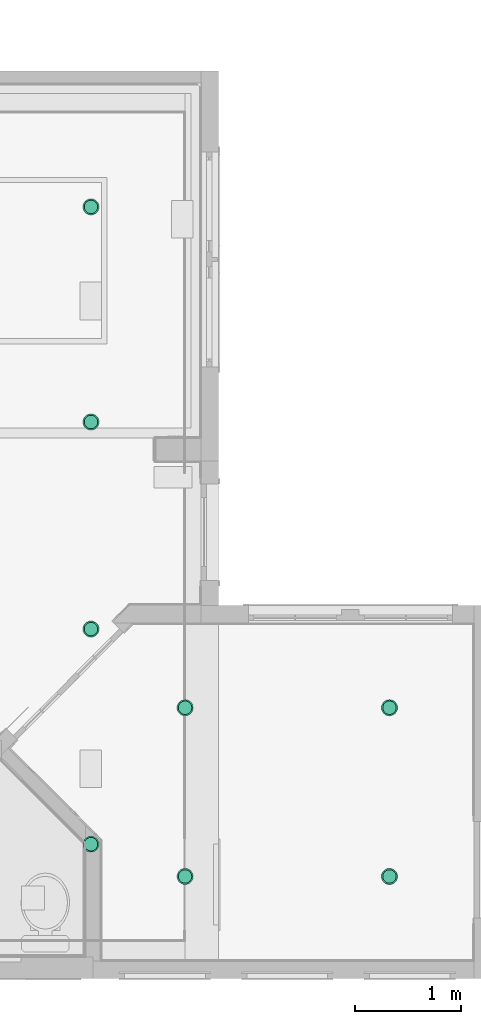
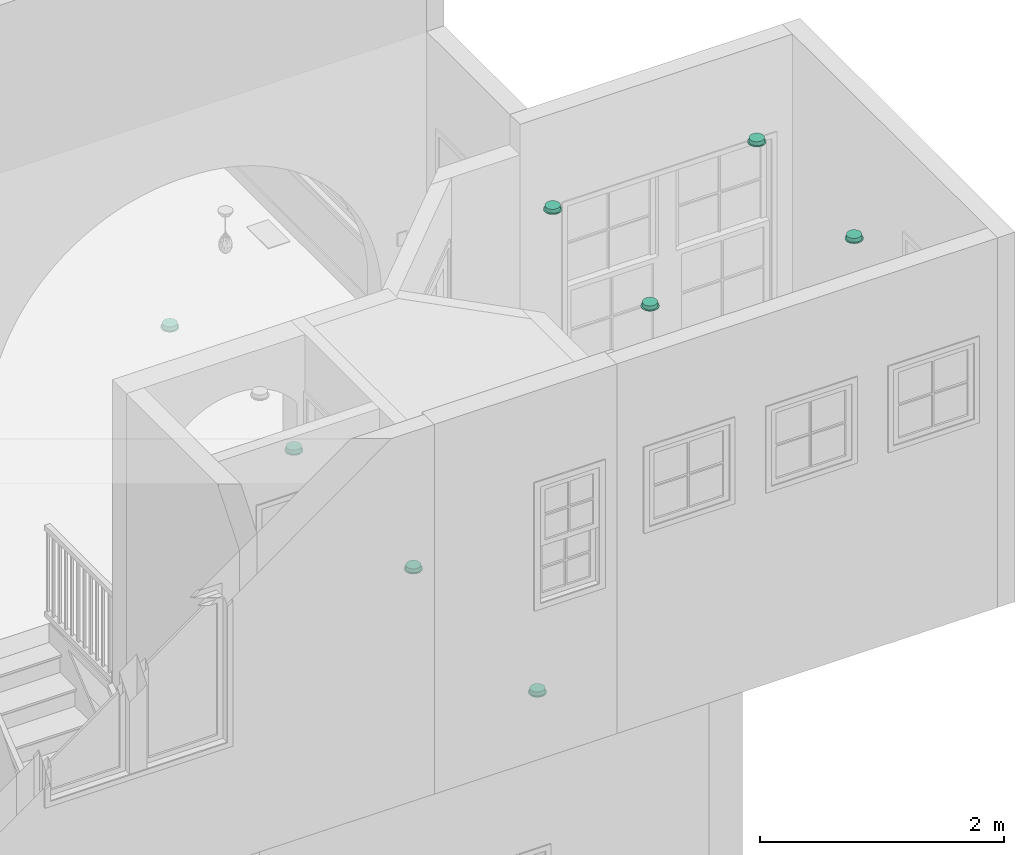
# One storey, part 49 of 81: 8 flow terminals.
"""IFC2X3 building model written with IfcOpenShell, lengths in feet."""

from ifc_helpers import new_model, entity, si_unit, converted_unit, derived_unit, direction, frame, origin, place, context, subcontext, project, spatial, faceted_brep, source, transform, mapped, material, material_list, type_object, type_shapes, element, save


model = new_model("IFC2X3")

# Units and contexts
model_context = context("Model", 3, precision=0.0001, world=origin(), true_north=direction((6.12303176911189e-17, 1.0)))
body_context = subcontext(model_context, "Body", "Model", "MODEL_VIEW")
ifc_project = project(units=[converted_unit("LENGTHUNIT", "FOOT", entity("IfcRatioMeasure", 0.3048), si_unit("LENGTHUNIT", "METRE"), dimensions=[1, 0, 0, 0, 0, 0, 0]), converted_unit("AREAUNIT", "SQUARE FOOT", entity("IfcRatioMeasure", 0.09290304), si_unit("AREAUNIT", "SQUARE_METRE"), dimensions=[2, 0, 0, 0, 0, 0, 0]), converted_unit("VOLUMEUNIT", "CUBIC FOOT", entity("IfcRatioMeasure", 0.028316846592), si_unit("VOLUMEUNIT", "CUBIC_METRE"), dimensions=[3, 0, 0, 0, 0, 0, 0]), converted_unit("PLANEANGLEUNIT", "DEGREE", entity("IfcRatioMeasure", 0.0174532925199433), si_unit("PLANEANGLEUNIT", "RADIAN"), dimensions=[0, 0, 0, 0, 0, 0, 0]), si_unit("MASSUNIT", "GRAM", prefix="KILO"), derived_unit("MASSDENSITYUNIT", [(si_unit("MASSUNIT", "GRAM", prefix="KILO"), 1), (si_unit("LENGTHUNIT", "METRE"), -3)]), derived_unit("MOMENTOFINERTIAUNIT", [(si_unit("LENGTHUNIT", "METRE"), 4)]), si_unit("TIMEUNIT", "SECOND"), si_unit("FREQUENCYUNIT", "HERTZ"), si_unit("THERMODYNAMICTEMPERATUREUNIT", "DEGREE_CELSIUS"), derived_unit("THERMALTRANSMITTANCEUNIT", [(si_unit("MASSUNIT", "GRAM", prefix="KILO"), 1), (si_unit("THERMODYNAMICTEMPERATUREUNIT", "KELVIN"), -1), (si_unit("TIMEUNIT", "SECOND"), -3)]), derived_unit("VOLUMETRICFLOWRATEUNIT", [(si_unit("LENGTHUNIT", "METRE"), 3), (si_unit("TIMEUNIT", "SECOND"), -1)]), si_unit("ELECTRICCURRENTUNIT", "AMPERE"), si_unit("ELECTRICVOLTAGEUNIT", "VOLT"), si_unit("POWERUNIT", "WATT"), si_unit("FORCEUNIT", "NEWTON"), si_unit("ILLUMINANCEUNIT", "LUX"), si_unit("LUMINOUSFLUXUNIT", "LUMEN"), si_unit("LUMINOUSINTENSITYUNIT", "CANDELA"), derived_unit("USERDEFINED", [(si_unit("MASSUNIT", "GRAM", prefix="KILO"), -1), (si_unit("LENGTHUNIT", "METRE"), -2), (si_unit("TIMEUNIT", "SECOND"), 3), (si_unit("LUMINOUSFLUXUNIT", "LUMEN"), 1)]), derived_unit("LINEARVELOCITYUNIT", [(si_unit("LENGTHUNIT", "METRE"), 1), (si_unit("TIMEUNIT", "SECOND"), -1)]), si_unit("PRESSUREUNIT", "PASCAL"), derived_unit("USERDEFINED", [(si_unit("LENGTHUNIT", "METRE"), -2), (si_unit("MASSUNIT", "GRAM", prefix="KILO"), 1), (si_unit("TIMEUNIT", "SECOND"), -2)]), derived_unit("LINEARFORCEUNIT", [(si_unit("MASSUNIT", "GRAM", prefix="KILO"), 1), (si_unit("LENGTHUNIT", "METRE"), 1), (si_unit("TIMEUNIT", "SECOND"), -2), (si_unit("LENGTHUNIT", "METRE"), -1)]), derived_unit("PLANARFORCEUNIT", [(si_unit("MASSUNIT", "GRAM", prefix="KILO"), 1), (si_unit("LENGTHUNIT", "METRE"), 1), (si_unit("TIMEUNIT", "SECOND"), -2), (si_unit("LENGTHUNIT", "METRE"), -2)])], contexts=[model_context])

# Site, building, storey
site_placement = place(None, origin())
site = spatial("IfcSite", under=ifc_project, at=site_placement, Name="Default", CompositionType="ELEMENT")
building_placement = place(site_placement, origin())
building = spatial("IfcBuilding", under=site, at=building_placement, CompositionType="ELEMENT")
storey_placement = place(building_placement, origin())
storey = spatial("IfcBuildingStorey", under=building, at=storey_placement, Name="First floor", CompositionType="ELEMENT", Elevation=0.0)

# Flow terminals
ifc_material_1 = material(Name="Default New Material")
ifc_material_2 = material(Name="Glass, White, High Luminance")
ifc_material_list_1 = material_list([ifc_material_1, ifc_material_2])
ifc_material_list_2 = material_list([ifc_material_1, ifc_material_2])
light_fixture_type = type_object("IfcLightFixtureType", Name="M_Recessed Lamp - Round - LED:Light 2", PredefinedType="NOTDEFINED", material=ifc_material_list_2)
shared_shape = source(origin(), body_context, "Body", "Brep", [
    faceted_brep([(-0.124999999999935, 0.216506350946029, 0.0208333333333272), (-0.176776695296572, 0.176776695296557, 0.0208333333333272), (-0.0833333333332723, 0.144337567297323, 0.0208333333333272), (-0.0431365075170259, 0.160987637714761, 0.0208333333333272), (-0.0647047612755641, 0.241481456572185, 0.0208333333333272), (-0.117851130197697, 0.117851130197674, 0.0208333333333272), (-0.216506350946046, 0.12499999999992, 0.0208333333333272), (-0.144337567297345, 0.0833333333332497, 0.0208333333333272), (-0.160987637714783, 0.0431365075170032, 0.0208333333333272), (-0.241481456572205, 0.0647047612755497, 0.0208333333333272), (-0.166666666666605, 0.0, 0.0208333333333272), (-0.249999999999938, 0.0, 0.0208333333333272), (-0.160987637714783, -0.0431365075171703, 0.0208333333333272), (-0.241481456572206, -0.0647047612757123, 0.0208333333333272), (-0.144337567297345, -0.0833333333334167, 0.0208333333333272), (-0.216506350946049, -0.125000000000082, 0.0208333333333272), (-0.117851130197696, -0.117851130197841, 0.0208333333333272), (-0.176776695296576, -0.176776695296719, 0.0208333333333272), (-0.0833333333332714, -0.14433756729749, 0.0208333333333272), (-0.12499999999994, -0.216506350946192, 0.0208333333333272), (-0.0431365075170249, -0.160987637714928, 0.0208333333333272), (-0.0647047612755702, -0.24148145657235, 0.0208333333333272), (0.0, -0.16666666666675, 0.0208333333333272), (0.0, -0.250000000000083, 0.0208333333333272), (0.0431365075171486, -0.160987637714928, 0.0208333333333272), (0.0647047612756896, -0.241481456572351, 0.0208333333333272), (0.0833333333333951, -0.144337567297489, 0.0208333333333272), (0.12500000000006, -0.216506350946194, 0.0208333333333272), (0.11785113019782, -0.117851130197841, 0.0208333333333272), (0.176776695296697, -0.176776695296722, 0.0208333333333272), (0.144337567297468, -0.0833333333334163, 0.0208333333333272), (0.21650635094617, -0.125000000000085, 0.0208333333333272), (0.241481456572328, -0.0647047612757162, 0.0208333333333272), (0.160987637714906, -0.0431365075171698, 0.0208333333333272), (0.250000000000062, 0.0, 0.0208333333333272), (0.166666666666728, 0.0, 0.0208333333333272), (0.241481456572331, 0.06470476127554, 0.0208333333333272), (0.160987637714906, 0.0431365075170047, 0.0208333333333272), (0.216506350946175, 0.124999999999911, 0.0208333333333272), (0.144337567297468, 0.0833333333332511, 0.0208333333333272), (0.176776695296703, 0.176776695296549, 0.0208333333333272), (0.117851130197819, 0.117851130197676, 0.0208333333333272), (0.125000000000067, 0.216506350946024, 0.0208333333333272), (0.0833333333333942, 0.144337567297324, 0.0208333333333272), (0.0647047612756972, 0.241481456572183, 0.0208333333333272), (0.0431365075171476, 0.160987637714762, 0.0208333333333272), (0.0, 0.249999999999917, 0.0208333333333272), (0.0, 0.166666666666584, 0.0208333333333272), (-0.12499999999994, -0.216506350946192, 0.0), (-0.176776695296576, -0.176776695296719, 0.0), (-0.0833333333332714, -0.14433756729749, 0.0), (-0.0431365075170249, -0.160987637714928, 0.0), (-0.0647047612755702, -0.24148145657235, 0.0), (-0.117851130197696, -0.117851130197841, 0.0), (-0.216506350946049, -0.125000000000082, 0.0), (-0.144337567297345, -0.0833333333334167, 0.0), (-0.160987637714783, -0.0431365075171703, 0.0), (-0.241481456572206, -0.0647047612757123, 0.0), (-0.166666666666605, 0.0, 0.0), (-0.249999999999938, 0.0, 0.0), (-0.160987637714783, 0.0431365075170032, 0.0), (-0.241481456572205, 0.0647047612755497, 0.0), (-0.144337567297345, 0.0833333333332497, 0.0), (-0.216506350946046, 0.12499999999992, 0.0), (-0.117851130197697, 0.117851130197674, 0.0), (-0.176776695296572, 0.176776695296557, 0.0), (-0.0833333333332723, 0.144337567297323, 0.0), (-0.124999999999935, 0.216506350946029, 0.0), (-0.0431365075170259, 0.160987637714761, 0.0), (-0.0647047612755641, 0.241481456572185, 0.0), (0.0, 0.166666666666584, 0.0), (0.0, 0.249999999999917, 0.0), (0.0431365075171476, 0.160987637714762, 0.0), (0.0647047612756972, 0.241481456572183, 0.0), (0.0833333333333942, 0.144337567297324, 0.0), (0.125000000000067, 0.216506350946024, 0.0), (0.117851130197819, 0.117851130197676, 0.0), (0.176776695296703, 0.176776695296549, 0.0), (0.144337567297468, 0.0833333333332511, 0.0), (0.216506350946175, 0.124999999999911, 0.0), (0.241481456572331, 0.06470476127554, 0.0), (0.160987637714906, 0.0431365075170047, 0.0), (0.250000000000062, 0.0, 0.0), (0.166666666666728, 0.0, 0.0), (0.241481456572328, -0.0647047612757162, 0.0), (0.160987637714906, -0.0431365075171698, 0.0), (0.21650635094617, -0.125000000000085, 0.0), (0.144337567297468, -0.0833333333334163, 0.0), (0.176776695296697, -0.176776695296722, 0.0), (0.11785113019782, -0.117851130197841, 0.0), (0.12500000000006, -0.216506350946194, 0.0), (0.0833333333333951, -0.144337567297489, 0.0), (0.0647047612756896, -0.241481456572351, 0.0), (0.0431365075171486, -0.160987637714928, 0.0), (0.0, -0.250000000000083, 0.0), (0.0, -0.16666666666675, 0.0)], [[[0, 1, 2]], [[0, 2, 3]], [[3, 4, 0]], [[2, 1, 5]], [[6, 5, 1]], [[7, 5, 6]], [[8, 7, 6]], [[8, 6, 9]], [[8, 9, 10]], [[10, 9, 11]], [[12, 10, 11]], [[12, 11, 13]], [[14, 12, 13]], [[14, 13, 15]], [[16, 14, 15]], [[15, 17, 16]], [[17, 18, 16]], [[18, 17, 19]], [[18, 19, 20]], [[21, 20, 19]], [[20, 21, 22]], [[22, 21, 23]], [[23, 24, 22]], [[24, 23, 25]], [[24, 25, 26]], [[27, 26, 25]], [[27, 28, 26]], [[27, 29, 28]], [[30, 28, 29]], [[31, 30, 29]], [[32, 30, 31]], [[33, 30, 32]], [[33, 32, 34]], [[34, 35, 33]], [[36, 35, 34]], [[36, 37, 35]], [[37, 36, 38]], [[39, 37, 38]], [[39, 38, 40]], [[39, 40, 41]], [[40, 42, 41]], [[41, 42, 43]], [[43, 42, 44]], [[44, 45, 43]], [[46, 45, 44]], [[4, 47, 46]], [[45, 46, 47]], [[4, 3, 47]], [[48, 49, 50]], [[48, 50, 51]], [[51, 52, 48]], [[50, 49, 53]], [[54, 53, 49]], [[55, 53, 54]], [[56, 55, 54]], [[56, 54, 57]], [[56, 57, 58]], [[58, 57, 59]], [[60, 58, 59]], [[60, 59, 61]], [[62, 60, 61]], [[62, 61, 63]], [[64, 62, 63]], [[63, 65, 64]], [[65, 66, 64]], [[66, 65, 67]], [[66, 67, 68]], [[69, 68, 67]], [[68, 69, 70]], [[70, 69, 71]], [[71, 72, 70]], [[72, 71, 73]], [[72, 73, 74]], [[75, 74, 73]], [[75, 76, 74]], [[75, 77, 76]], [[78, 76, 77]], [[79, 78, 77]], [[80, 78, 79]], [[81, 78, 80]], [[81, 80, 82]], [[82, 83, 81]], [[84, 83, 82]], [[84, 85, 83]], [[85, 84, 86]], [[87, 85, 86]], [[87, 86, 88]], [[87, 88, 89]], [[88, 90, 89]], [[89, 90, 91]], [[91, 90, 92]], [[92, 93, 91]], [[94, 93, 92]], [[52, 95, 94]], [[93, 94, 95]], [[52, 51, 95]], [[10, 58, 60, 8]], [[8, 60, 62, 7]], [[2, 5, 64, 66]], [[62, 64, 5, 7]], [[3, 2, 66, 68]], [[70, 47, 3, 68]], [[45, 72, 74, 43]], [[43, 74, 76, 41]], [[37, 39, 78, 81]], [[76, 78, 39, 41]], [[35, 37, 81, 83]], [[45, 47, 70, 72]], [[35, 83, 85, 33]], [[33, 85, 87, 30]], [[26, 28, 89, 91]], [[87, 89, 28, 30]], [[24, 26, 91, 93]], [[95, 22, 24, 93]], [[20, 51, 50, 18]], [[18, 50, 53, 16]], [[12, 14, 55, 56]], [[53, 55, 14, 16]], [[10, 12, 56, 58]], [[20, 22, 95, 51]], [[57, 13, 11, 59]], [[54, 15, 13, 57]], [[19, 17, 49, 48]], [[54, 49, 17, 15]], [[21, 19, 48, 52]], [[23, 21, 52, 94]], [[92, 25, 23, 94]], [[90, 27, 25, 92]], [[31, 29, 88, 86]], [[90, 88, 29, 27]], [[32, 31, 86, 84]], [[34, 32, 84, 82]], [[80, 36, 34, 82]], [[79, 38, 36, 80]], [[42, 40, 77, 75]], [[79, 77, 40, 38]], [[44, 42, 75, 73]], [[46, 44, 73, 71]], [[69, 4, 46, 71]], [[67, 0, 4, 69]], [[6, 1, 65, 63]], [[67, 65, 1, 0]], [[9, 6, 63, 61]], [[11, 9, 61, 59]]]),
    faceted_brep([(0.0431365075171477, -0.160987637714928, 0.0208333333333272), (0.0833333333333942, -0.14433756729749, 0.0208333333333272), (0.117851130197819, -0.117851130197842, 0.0208333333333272), (0.144337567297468, -0.0833333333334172, 0.0208333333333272), (0.160987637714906, -0.0431365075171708, 0.0208333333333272), (0.166666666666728, 0.0, 0.0208333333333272), (0.160987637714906, 0.0431365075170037, 0.0208333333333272), (0.144337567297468, 0.0833333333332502, 0.0208333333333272), (0.11785113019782, 0.117851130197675, 0.0208333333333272), (0.0833333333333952, 0.144337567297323, 0.0208333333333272), (0.0431365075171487, 0.160987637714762, 0.0208333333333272), (0.0, 0.166666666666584, 0.0208333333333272), (-0.0431365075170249, 0.160987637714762, 0.0208333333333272), (-0.0833333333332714, 0.144337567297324, 0.0208333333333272), (-0.117851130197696, 0.117851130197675, 0.0208333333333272), (-0.144337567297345, 0.0833333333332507, 0.0208333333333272), (-0.160987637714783, 0.0431365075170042, 0.0208333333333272), (-0.166666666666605, 0.0, 0.0208333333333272), (-0.160987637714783, -0.0431365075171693, 0.0208333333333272), (-0.144337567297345, -0.0833333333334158, 0.0208333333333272), (-0.117851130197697, -0.117851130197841, 0.0208333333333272), (-0.0833333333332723, -0.144337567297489, 0.0208333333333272), (-0.0431365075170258, -0.160987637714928, 0.0208333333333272), (0.0, -0.16666666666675, 0.0208333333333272), (0.0431365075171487, 0.160987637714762, 0.0), (0.0833333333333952, 0.144337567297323, 0.0), (0.11785113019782, 0.117851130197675, 0.0), (0.144337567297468, 0.0833333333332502, 0.0), (0.160987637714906, 0.0431365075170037, 0.0), (0.166666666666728, 0.0, 0.0), (0.160987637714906, -0.0431365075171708, 0.0), (0.144337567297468, -0.0833333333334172, 0.0), (0.117851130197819, -0.117851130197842, 0.0), (0.0833333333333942, -0.14433756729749, 0.0), (0.0431365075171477, -0.160987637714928, 0.0), (0.0, -0.16666666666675, 0.0), (-0.0431365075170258, -0.160987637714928, 0.0), (-0.0833333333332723, -0.144337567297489, 0.0), (-0.117851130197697, -0.117851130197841, 0.0), (-0.144337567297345, -0.0833333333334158, 0.0), (-0.160987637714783, -0.0431365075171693, 0.0), (-0.166666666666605, 0.0, 0.0), (-0.160987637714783, 0.0431365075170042, 0.0), (-0.144337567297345, 0.0833333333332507, 0.0), (-0.117851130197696, 0.117851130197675, 0.0), (-0.0833333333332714, 0.144337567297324, 0.0), (-0.0431365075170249, 0.160987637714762, 0.0), (0.0, 0.166666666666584, 0.0)], [[[0, 1, 2, 3, 4, 5, 6, 7, 8, 9, 10, 11, 12, 13, 14, 15, 16, 17, 18, 19, 20, 21, 22, 23]], [[24, 25, 26, 27, 28, 29, 30, 31, 32, 33, 34, 35, 36, 37, 38, 39, 40, 41, 42, 43, 44, 45, 46, 47]], [[40, 18, 17, 41]], [[39, 19, 18, 40]], [[21, 20, 38, 37]], [[39, 38, 20, 19]], [[22, 21, 37, 36]], [[23, 22, 36, 35]], [[34, 0, 23, 35]], [[33, 1, 0, 34]], [[3, 2, 32, 31]], [[33, 32, 2, 1]], [[4, 3, 31, 30]], [[5, 4, 30, 29]], [[28, 6, 5, 29]], [[27, 7, 6, 28]], [[9, 8, 26, 25]], [[27, 26, 8, 7]], [[10, 9, 25, 24]], [[11, 10, 24, 47]], [[46, 12, 11, 47]], [[45, 13, 12, 46]], [[15, 14, 44, 43]], [[45, 44, 14, 13]], [[16, 15, 43, 42]], [[17, 16, 42, 41]]]),
    faceted_brep([(0.0, -0.16666666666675, -0.104166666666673), (0.0431365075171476, -0.160987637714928, -0.104166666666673), (0.0833333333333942, -0.14433756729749, -0.104166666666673), (0.117851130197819, -0.117851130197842, -0.104166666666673), (0.144337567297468, -0.0833333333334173, -0.104166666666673), (0.160987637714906, -0.0431365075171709, -0.104166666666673), (0.166666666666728, 0.0, -0.104166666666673), (0.160987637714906, 0.0431365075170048, -0.104166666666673), (0.144337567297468, 0.0833333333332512, -0.104166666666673), (0.117851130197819, 0.117851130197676, -0.104166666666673), (0.0833333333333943, 0.144337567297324, -0.104166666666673), (0.0431365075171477, 0.160987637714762, -0.104166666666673), (0.0, 0.166666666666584, -0.104166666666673), (-0.0431365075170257, 0.160987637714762, -0.104166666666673), (-0.0833333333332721, 0.144337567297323, -0.104166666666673), (-0.117851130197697, 0.117851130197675, -0.104166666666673), (-0.144337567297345, 0.0833333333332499, -0.104166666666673), (-0.160987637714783, 0.0431365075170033, -0.104166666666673), (-0.166666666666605, 0.0, -0.104166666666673), (-0.160987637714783, -0.0431365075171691, -0.104166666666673), (-0.144337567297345, -0.0833333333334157, -0.104166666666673), (-0.117851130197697, -0.11785113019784, -0.104166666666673), (-0.0833333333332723, -0.144337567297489, -0.104166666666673), (-0.0431365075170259, -0.160987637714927, -0.104166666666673), (0.0, 0.20833333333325, -0.125000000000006), (0.0539206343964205, 0.201234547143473, -0.125000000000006), (0.104166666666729, 0.180421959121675, -0.125000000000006), (0.147313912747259, 0.147313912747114, -0.125000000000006), (0.18042195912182, 0.104166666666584, -0.125000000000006), (0.201234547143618, 0.0539206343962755, -0.125000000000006), (0.208333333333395, 0.0, -0.125000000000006), (0.201234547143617, -0.0539206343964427, -0.125000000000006), (0.180421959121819, -0.104166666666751, -0.125000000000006), (0.147313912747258, -0.147313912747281, -0.125000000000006), (0.104166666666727, -0.180421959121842, -0.125000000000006), (0.0539206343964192, -0.201234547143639, -0.125000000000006), (0.0, -0.208333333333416, -0.125000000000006), (-0.0539206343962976, -0.201234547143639, -0.125000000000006), (-0.104166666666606, -0.180421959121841, -0.125000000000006), (-0.147313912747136, -0.14731391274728, -0.125000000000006), (-0.180421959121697, -0.104166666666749, -0.125000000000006), (-0.201234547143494, -0.0539206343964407, -0.125000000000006), (-0.208333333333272, 0.0, -0.125000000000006), (-0.201234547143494, 0.0539206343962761, -0.125000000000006), (-0.180421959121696, 0.104166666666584, -0.125000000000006), (-0.147313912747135, 0.147313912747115, -0.125000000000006), (-0.104166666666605, 0.180421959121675, -0.125000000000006), (-0.0539206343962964, 0.201234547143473, -0.125000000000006), (-0.201234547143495, -0.0539206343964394, -0.104166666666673), (-0.201234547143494, -0.0539206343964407, 0.0), (-0.208333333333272, 0.0, 0.0), (-0.208333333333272, 0.0, -0.104166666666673), (-0.180421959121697, -0.104166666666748, -0.104166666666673), (-0.180421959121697, -0.104166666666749, 0.0), (-0.104166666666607, -0.18042195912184, -0.104166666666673), (-0.104166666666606, -0.180421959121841, 0.0), (-0.147313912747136, -0.14731391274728, 0.0), (-0.147313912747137, -0.147313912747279, -0.104166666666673), (-0.0539206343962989, -0.201234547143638, -0.104166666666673), (-0.0539206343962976, -0.201234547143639, 0.0), (0.0, -0.208333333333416, -0.104166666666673), (0.0, -0.208333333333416, 0.0), (0.053920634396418, -0.201234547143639, -0.104166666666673), (0.0539206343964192, -0.201234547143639, 0.0), (0.104166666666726, -0.180421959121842, -0.104166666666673), (0.104166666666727, -0.180421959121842, 0.0), (0.180421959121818, -0.104166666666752, -0.104166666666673), (0.180421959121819, -0.104166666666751, 0.0), (0.147313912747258, -0.147313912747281, 0.0), (0.147313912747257, -0.147313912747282, -0.104166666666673), (0.201234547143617, -0.0539206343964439, -0.104166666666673), (0.201234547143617, -0.0539206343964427, 0.0), (0.208333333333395, 0.0, -0.104166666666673), (0.208333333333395, 0.0, 0.0), (0.201234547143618, 0.0539206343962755, -0.104166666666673), (0.201234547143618, 0.0539206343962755, 0.0), (0.18042195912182, 0.104166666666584, -0.104166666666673), (0.18042195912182, 0.104166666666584, 0.0), (0.104166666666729, 0.180421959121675, -0.104166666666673), (0.104166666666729, 0.180421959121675, 0.0), (0.147313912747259, 0.147313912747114, 0.0), (0.147313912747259, 0.147313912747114, -0.104166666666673), (0.0539206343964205, 0.201234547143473, -0.104166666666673), (0.0539206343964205, 0.201234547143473, 0.0), (0.0, 0.20833333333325, -0.104166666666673), (0.0, 0.20833333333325, 0.0), (-0.0539206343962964, 0.201234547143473, -0.104166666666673), (-0.0539206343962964, 0.201234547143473, 0.0), (-0.104166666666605, 0.180421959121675, -0.104166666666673), (-0.104166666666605, 0.180421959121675, 0.0), (-0.180421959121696, 0.104166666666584, -0.104166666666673), (-0.180421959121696, 0.104166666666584, 0.0), (-0.147313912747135, 0.147313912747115, 0.0), (-0.147313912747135, 0.147313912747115, -0.104166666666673), (-0.201234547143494, 0.0539206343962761, -0.104166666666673), (-0.201234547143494, 0.0539206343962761, 0.0), (-0.0833333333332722, 0.144337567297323, 0.0), (-0.0431365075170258, 0.160987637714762, 0.0), (-0.117851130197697, 0.117851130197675, 0.0), (-0.144337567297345, 0.0833333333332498, 0.0), (-0.160987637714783, 0.0431365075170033, 0.0), (-0.166666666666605, 0.0, 0.0), (-0.160987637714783, -0.0431365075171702, 0.0), (-0.144337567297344, -0.0833333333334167, 0.0), (-0.117851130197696, -0.117851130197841, 0.0), (-0.0833333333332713, -0.14433756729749, 0.0), (-0.0431365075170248, -0.160987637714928, 0.0), (0.0, -0.16666666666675, 0.0), (0.0431365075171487, -0.160987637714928, 0.0), (0.0833333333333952, -0.144337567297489, 0.0), (0.11785113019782, -0.117851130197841, 0.0), (0.144337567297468, -0.0833333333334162, 0.0), (0.160987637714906, -0.0431365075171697, 0.0), (0.166666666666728, 0.0, 0.0), (0.160987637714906, 0.0431365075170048, 0.0), (0.144337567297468, 0.0833333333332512, 0.0), (0.117851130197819, 0.117851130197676, 0.0), (0.0833333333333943, 0.144337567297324, 0.0), (0.0431365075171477, 0.160987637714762, 0.0), (0.0, 0.166666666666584, 0.0)], [[[0, 1, 2, 3, 4, 5, 6, 7, 8, 9, 10, 11, 12, 13, 14, 15, 16, 17, 18, 19, 20, 21, 22, 23]], [[24, 25, 26, 27, 28, 29, 30, 31, 32, 33, 34, 35, 36, 37, 38, 39, 40, 41, 42, 43, 44, 45, 46, 47]], [[41, 48, 49, 50, 51, 42]], [[40, 52, 53, 49, 48, 41]], [[54, 55, 56, 57, 39, 38]], [[40, 39, 57, 56, 53, 52]], [[58, 59, 55, 54, 38, 37]], [[60, 61, 59, 58, 37, 36]], [[35, 62, 63, 61, 60, 36]], [[34, 64, 65, 63, 62, 35]], [[66, 67, 68, 69, 33, 32]], [[34, 33, 69, 68, 65, 64]], [[70, 71, 67, 66, 32, 31]], [[72, 73, 71, 70, 31, 30]], [[29, 74, 75, 73, 72, 30]], [[28, 76, 77, 75, 74, 29]], [[78, 79, 80, 81, 27, 26]], [[28, 27, 81, 80, 77, 76]], [[82, 83, 79, 78, 26, 25]], [[84, 85, 83, 82, 25, 24]], [[47, 86, 87, 85, 84, 24]], [[46, 88, 89, 87, 86, 47]], [[90, 91, 92, 93, 45, 44]], [[46, 45, 93, 92, 89, 88]], [[94, 95, 91, 90, 44, 43]], [[51, 50, 95, 94, 43, 42]], [[89, 92, 96]], [[89, 96, 97]], [[97, 87, 89]], [[96, 92, 98]], [[91, 98, 92]], [[99, 98, 91]], [[100, 99, 91]], [[100, 91, 95]], [[100, 95, 101]], [[101, 95, 50]], [[102, 101, 50]], [[102, 50, 49]], [[103, 102, 49]], [[103, 49, 53]], [[104, 103, 53]], [[53, 56, 104]], [[56, 105, 104]], [[105, 56, 55]], [[105, 55, 106]], [[59, 106, 55]], [[106, 59, 107]], [[107, 59, 61]], [[61, 108, 107]], [[108, 61, 63]], [[108, 63, 109]], [[65, 109, 63]], [[65, 110, 109]], [[65, 68, 110]], [[111, 110, 68]], [[67, 111, 68]], [[71, 111, 67]], [[112, 111, 71]], [[112, 71, 73]], [[73, 113, 112]], [[75, 113, 73]], [[75, 114, 113]], [[114, 75, 77]], [[115, 114, 77]], [[115, 77, 80]], [[115, 80, 116]], [[80, 79, 116]], [[116, 79, 117]], [[117, 79, 83]], [[83, 118, 117]], [[85, 118, 83]], [[87, 119, 85]], [[85, 119, 118]], [[87, 97, 119]], [[113, 6, 5, 112]], [[112, 5, 4, 111]], [[109, 110, 3, 2]], [[4, 3, 110, 111]], [[108, 109, 2, 1]], [[0, 107, 108, 1]], [[104, 105, 22, 21]], [[23, 22, 105, 106]], [[102, 103, 20, 19]], [[104, 21, 20, 103]], [[102, 19, 18, 101]], [[0, 23, 106, 107]], [[101, 18, 17, 100]], [[100, 17, 16, 99]], [[96, 98, 15, 14]], [[16, 15, 98, 99]], [[97, 96, 14, 13]], [[12, 119, 97, 13]], [[118, 11, 10, 117]], [[117, 10, 9, 116]], [[114, 115, 8, 7]], [[9, 8, 115, 116]], [[113, 114, 7, 6]], [[118, 119, 12, 11]]]),
])
type_shapes(light_fixture_type, [shared_shape])
flow_terminal_1_placement = place(storey_placement, frame((31.7083333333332, 23.9167540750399, 8.41666666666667), z_axis=(0.0, 0.0, -1.0), x_axis=(1.0, 0.0, 0.0)))
element("IfcFlowTerminal", 1, at=flow_terminal_1_placement, inside=storey, type_object=light_fixture_type, material=ifc_material_list_1, Name="M_Recessed Lamp - Round - LED:Light 2", ObjectType="M_Recessed Lamp - Round - LED:Light 2", context=body_context, shape_type="MappedRepresentation", body=[
    mapped(shared_shape, transform((0.0, 0.0, 0.0), scale=1.0)),
])
ifc_material_list_3 = material_list([ifc_material_1, ifc_material_2])
flow_terminal_2_placement = place(storey_placement, frame((31.7083333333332, 17.2500874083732, 8.41666666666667), z_axis=(0.0, 0.0, -1.0), x_axis=(1.0, 0.0, 0.0)))
element("IfcFlowTerminal", 2, at=flow_terminal_2_placement, inside=storey, type_object=light_fixture_type, material=ifc_material_list_3, Name="M_Recessed Lamp - Round - LED:Light 2", ObjectType="M_Recessed Lamp - Round - LED:Light 2", context=body_context, shape_type="MappedRepresentation", body=[
    mapped(shared_shape, transform((0.0, 0.0, 0.0), scale=1.0)),
])
ifc_material_list_4 = material_list([ifc_material_1, ifc_material_2])
flow_terminal_3_placement = place(storey_placement, frame((31.7083333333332, 10.8334207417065, 8.41666666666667), z_axis=(0.0, 0.0, -1.0), x_axis=(1.0, 0.0, 0.0)))
element("IfcFlowTerminal", 3, at=flow_terminal_3_placement, inside=storey, type_object=light_fixture_type, material=ifc_material_list_4, Name="M_Recessed Lamp - Round - LED:Light 2", ObjectType="M_Recessed Lamp - Round - LED:Light 2", context=body_context, shape_type="MappedRepresentation", body=[
    mapped(shared_shape, transform((0.0, 0.0, 0.0), scale=1.0)),
])
ifc_material_list_5 = material_list([ifc_material_1, ifc_material_2])
flow_terminal_4_placement = place(storey_placement, frame((31.7083333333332, 4.16675407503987, 8.41666666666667), z_axis=(0.0, 0.0, -1.0), x_axis=(1.0, 0.0, 0.0)))
element("IfcFlowTerminal", 4, at=flow_terminal_4_placement, inside=storey, type_object=light_fixture_type, material=ifc_material_list_5, Name="M_Recessed Lamp - Round - LED:Light 2", ObjectType="M_Recessed Lamp - Round - LED:Light 2", context=body_context, shape_type="MappedRepresentation", body=[
    mapped(shared_shape, transform((0.0, 0.0, 0.0), scale=1.0)),
])
ifc_material_list_6 = material_list([ifc_material_1, ifc_material_2])
flow_terminal_5_placement = place(storey_placement, frame((34.6249999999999, 3.16666666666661, 20.6666666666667), z_axis=(0.0, 0.0, -1.0), x_axis=(1.0, -7.7356313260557e-06, 0.0)))
element("IfcFlowTerminal", 5, at=flow_terminal_5_placement, inside=storey, type_object=light_fixture_type, material=ifc_material_list_6, Name="M_Recessed Lamp - Round - LED:Light 2", ObjectType="M_Recessed Lamp - Round - LED:Light 2", context=body_context, shape_type="MappedRepresentation", body=[
    mapped(shared_shape, transform((0.0, 0.0, 0.0), scale=1.0)),
])
ifc_material_list_7 = material_list([ifc_material_1, ifc_material_2])
flow_terminal_6_placement = place(storey_placement, frame((34.6250000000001, 8.39583333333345, 20.6666666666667), z_axis=(0.0, 0.0, -1.0), x_axis=(-1.0, 0.0, 0.0)))
element("IfcFlowTerminal", 6, at=flow_terminal_6_placement, inside=storey, type_object=light_fixture_type, material=ifc_material_list_7, Name="M_Recessed Lamp - Round - LED:Light 2", ObjectType="M_Recessed Lamp - Round - LED:Light 2", context=body_context, shape_type="MappedRepresentation", body=[
    mapped(shared_shape, transform((0.0, 0.0, 0.0), scale=1.0)),
])
ifc_material_list_8 = material_list([ifc_material_1, ifc_material_2])
flow_terminal_7_placement = place(storey_placement, frame((40.9583333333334, 8.39583333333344, 20.6666666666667), z_axis=(0.0, 0.0, -1.0), x_axis=(-1.0, 0.0, 0.0)))
element("IfcFlowTerminal", 7, at=flow_terminal_7_placement, inside=storey, type_object=light_fixture_type, material=ifc_material_list_8, Name="M_Recessed Lamp - Round - LED:Light 2", ObjectType="M_Recessed Lamp - Round - LED:Light 2", context=body_context, shape_type="MappedRepresentation", body=[
    mapped(shared_shape, transform((0.0, 0.0, 0.0), scale=1.0)),
])
ifc_material_list_9 = material_list([ifc_material_1, ifc_material_2])
flow_terminal_8_placement = place(storey_placement, frame((40.9583333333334, 3.16666666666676, 20.6666666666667), z_axis=(0.0, 0.0, -1.0), x_axis=(-1.0, 0.0, 0.0)))
element("IfcFlowTerminal", 8, at=flow_terminal_8_placement, inside=storey, type_object=light_fixture_type, material=ifc_material_list_9, Name="M_Recessed Lamp - Round - LED:Light 2", ObjectType="M_Recessed Lamp - Round - LED:Light 2", context=body_context, shape_type="MappedRepresentation", body=[
    mapped(shared_shape, transform((0.0, 0.0, 0.0), scale=1.0)),
])

save(model, "model.ifc")
